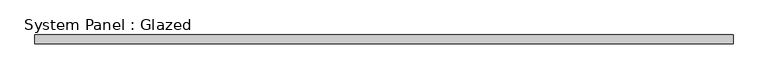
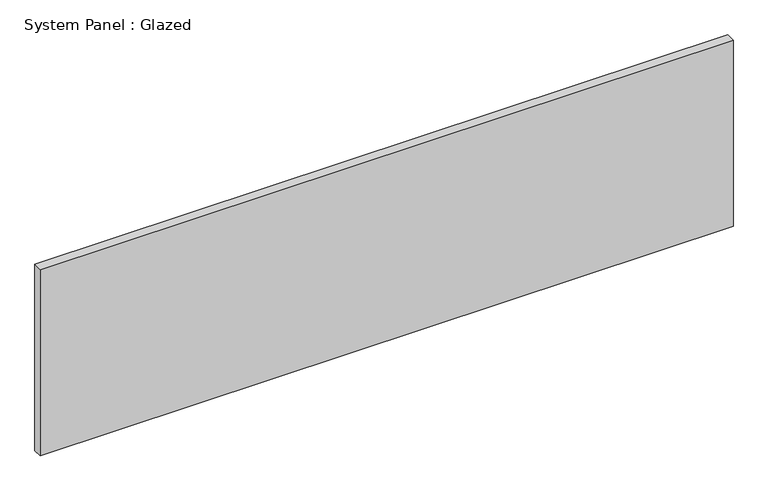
"""IFC4 building model written with IfcOpenShell, lengths in millimetres: plate geometry, System Panel : Glazed."""

import ifcopenshell
import ifcopenshell.guid

model = None  # the IFC model being written
_history = None  # IfcOwnerHistory: only IFC2X3 demands one
_inside = {}  # id of a spatial element -> (the spatial element, [elements in it])
_under = {}  # id of a project, library or spatial element -> (it, [spatial elements below it])
_declared = {}  # id of a project -> (the project, [libraries it declares])
_typed = {}  # id of a type object -> (the type object, [elements of that type])
_made_of = {}  # id of a material, layer set ... -> (it, [elements and type objects made of it])


def new_model(schema):
    """Start an empty IFC model of exactly this schema.

    Asked for "IFC4X3", IfcOpenShell would pick the latest addendum, in which some entities
    have other attributes; the version numbers below select the first issue.
    IFC2X3 requires an IfcOwnerHistory on every rooted entity: one is made here for all.
    """
    global model, _history
    if schema == "IFC4X3":
        model = ifcopenshell.file(schema_version=(4, 3, 0, 0))
    else:
        model = ifcopenshell.file(schema=schema)
    _inside.clear()
    _under.clear()
    _declared.clear()
    _typed.clear()
    _made_of.clear()
    _history = None
    if model.schema == "IFC2X3":
        org = make("IfcOrganization", Name="unknown")
        user = make(
            "IfcPersonAndOrganization",
            ThePerson=make("IfcPerson", FamilyName="unknown"),
            TheOrganization=org,
        )
        app = make(
            "IfcApplication",
            ApplicationDeveloper=org,
            Version="unknown",
            ApplicationFullName="unknown",
            ApplicationIdentifier="unknown",
        )
        _history = make(
            "IfcOwnerHistory",
            OwningUser=user,
            OwningApplication=app,
            ChangeAction="ADDED",
            CreationDate=0,
        )
    return model


def make(cls, **values):
    """One entity of the class cls with the attributes given. An attribute that is None is left unset."""
    return model.create_entity(
        cls, **{name: value for name, value in values.items() if value is not None}
    )


def rooted(cls, **values):
    """An entity with a GlobalId (a new one), such as an element, a storey or a relation."""
    return make(cls, GlobalId=ifcopenshell.guid.new(), OwnerHistory=_history, **values)


def si_unit(unit_type, name, prefix=None):
    """IfcSIUnit, for example si_unit("LENGTHUNIT", "METRE", prefix="MILLI")."""
    return make("IfcSIUnit", UnitType=unit_type, Prefix=prefix, Name=name)


def assignment(units):
    """IfcUnitAssignment: the units of a project."""
    return None if units is None else make("IfcUnitAssignment", Units=units)


def point(xyz):
    """IfcCartesianPoint."""
    return None if xyz is None else make("IfcCartesianPoint", Coordinates=xyz)


def direction(xyz):
    """IfcDirection."""
    return None if xyz is None else make("IfcDirection", DirectionRatios=xyz)


def frame(location, z_axis=None, x_axis=None):
    """IfcAxis2Placement3D, a coordinate frame: its origin and axes. An axis left out is left unset."""
    return make(
        "IfcAxis2Placement3D",
        Location=point(location),
        Axis=direction(z_axis),
        RefDirection=direction(x_axis),
    )


def origin():
    """The frame at (0, 0, 0) with its axes left unset."""
    return frame((0.0, 0.0, 0.0))


def origin_with_axes():
    """The frame at (0, 0, 0) with the z axis (0, 0, 1) and the x axis (1, 0, 0) written out."""
    return frame((0.0, 0.0, 0.0), z_axis=(0.0, 0.0, 1.0), x_axis=(1.0, 0.0, 0.0))


def place(relative_to, where):
    """IfcLocalPlacement: puts the frame where relative to a parent placement (None: the world)."""
    return make(
        "IfcLocalPlacement", PlacementRelTo=relative_to, RelativePlacement=where
    )


def context(
    kind, dimensions, precision=None, world=None, true_north=None, identifier=None
):
    """IfcGeometricRepresentationContext, for example the 3D "Model" context."""
    return make(
        "IfcGeometricRepresentationContext",
        ContextIdentifier=identifier,
        ContextType=kind,
        CoordinateSpaceDimension=dimensions,
        Precision=precision,
        WorldCoordinateSystem=world,
        TrueNorth=true_north,
    )


def project(units=None, contexts=None):
    """IfcProject with its units and contexts."""
    return rooted(
        "IfcProject",
        Name="project",
        RepresentationContexts=contexts,
        UnitsInContext=assignment(units),
    )


def spatial(cls, under=None, at=None, **own):
    """A site, building, storey or space (cls), placed at a placement, below another one or the project."""
    s = rooted(cls, ObjectPlacement=at, **own)
    if under is not None:
        _under.setdefault(under.id(), (under, []))[1].append(s)
    return s


def polyline(points):
    """IfcPolyline through the points."""
    return make("IfcPolyline", Points=[point(p) for p in points])


def outline(outer, holes=None, kind="AREA"):
    """IfcArbitraryClosedProfileDef: a profile drawn as a closed curve; with holes, ...WithVoids."""
    if holes is None:
        return make("IfcArbitraryClosedProfileDef", ProfileType=kind, OuterCurve=outer)
    return make(
        "IfcArbitraryProfileDefWithVoids",
        ProfileType=kind,
        OuterCurve=outer,
        InnerCurves=holes,
    )


def extrude(swept, where, along, depth):
    """IfcExtrudedAreaSolid: the profile swept, set in the frame where, extruded along a direction by depth."""
    return make(
        "IfcExtrudedAreaSolid",
        SweptArea=swept,
        Position=where,
        ExtrudedDirection=direction(along),
        Depth=depth,
    )


def shape(context_of_items, identifier, shape_type, items):
    """IfcShapeRepresentation: the items that make up one representation, for example the "Body"."""
    return make(
        "IfcShapeRepresentation",
        ContextOfItems=context_of_items,
        RepresentationIdentifier=identifier,
        RepresentationType=shape_type,
        Items=items,
    )


def source(mapping_origin, context_of_items, identifier, shape_type, items):
    """IfcRepresentationMap: a shape defined once, which mapped items show again and again."""
    return make(
        "IfcRepresentationMap",
        MappingOrigin=mapping_origin,
        MappedRepresentation=shape(context_of_items, identifier, shape_type, items),
    )


def transform(
    local_origin,
    x_axis=None,
    y_axis=None,
    z_axis=None,
    scale=None,
    scale2=None,
    scale3=None,
    uniform=True,
):
    """IfcCartesianTransformationOperator3D, or its non-uniform kind. x_axis, y_axis, z_axis: its Axis1, 2, 3."""
    if uniform:
        return make(
            "IfcCartesianTransformationOperator3D",
            Axis1=direction(x_axis),
            Axis2=direction(y_axis),
            LocalOrigin=point(local_origin),
            Scale=scale,
            Axis3=direction(z_axis),
        )
    return make(
        "IfcCartesianTransformationOperator3DnonUniform",
        Axis1=direction(x_axis),
        Axis2=direction(y_axis),
        LocalOrigin=point(local_origin),
        Scale=scale,
        Axis3=direction(z_axis),
        Scale2=scale2,
        Scale3=scale3,
    )


def mapped(mapping_source, mapping_target):
    """IfcMappedItem: shows the shape of a source again, moved by a transform."""
    return make(
        "IfcMappedItem", MappingSource=mapping_source, MappingTarget=mapping_target
    )


def made_of(thing, what):
    """Note that an element or type object is made of a material, layer set ...; save() writes the relation."""
    if what is not None:
        _made_of.setdefault(what.id(), (what, []))[1].append(thing)
    return thing


def element(
    cls,
    number,
    at=None,
    inside=None,
    cuts=None,
    type_object=None,
    material=None,
    context=None,
    identifier="Body",
    shape_type=None,
    held_by="IfcProductDefinitionShape",
    body=None,
    shapes=None,
    **own,
):
    """One element of the class cls, such as IfcWall. Its Tag is "e" and its number.

    at: its placement. inside: the storey or other place that contains it. cuts: it is an
    opening in that element (IfcRelVoidsElement). A single representation is given by context,
    identifier, shape_type and body (its items); several are given by shapes. held_by: the class
    of the entity that holds the representations. save() writes the other relations.
    """
    e = rooted(cls, Tag="e%d" % number, ObjectPlacement=at, **own)
    if body is not None:
        shapes = [shape(context, identifier, shape_type, body)]
    if shapes is not None:
        e.Representation = make(held_by, Representations=shapes)
    if inside is not None:
        _inside.setdefault(inside.id(), (inside, []))[1].append(e)
    if cuts is not None:
        rooted(
            "IfcRelVoidsElement", RelatingBuildingElement=cuts, RelatedOpeningElement=e
        )
    if type_object is not None:
        _typed.setdefault(type_object.id(), (type_object, []))[1].append(e)
    return made_of(e, material)


def aggregate(whole, parts):
    """IfcRelAggregates: a whole, such as a stair, and the parts it consists of."""
    return rooted("IfcRelAggregates", RelatingObject=whole, RelatedObjects=parts)


def save(model, path):
    """Write the relations noted so far, then the file.

    IfcRelAggregates (storeys below a building ...), IfcRelContainedInSpatialStructure (elements
    in a storey), IfcRelDefinesByType, IfcRelAssociatesMaterial and IfcRelDeclares: one each for
    every whole, place, type object, material and project.
    """
    for whole, parts in _under.values():
        aggregate(whole, parts)
    for where, things in _inside.values():
        rooted(
            "IfcRelContainedInSpatialStructure",
            RelatedElements=things,
            RelatingStructure=where,
        )
    for kind, things in _typed.values():
        rooted("IfcRelDefinesByType", RelatedObjects=things, RelatingType=kind)
    for what, things in _made_of.values():
        rooted("IfcRelAssociatesMaterial", RelatedObjects=things, RelatingMaterial=what)
    for by, libraries in _declared.values():
        rooted("IfcRelDeclares", RelatingContext=by, RelatedDefinitions=libraries)
    model.write(path)


def system_panel_glazed_eecd68d4(model_context):
    return source(origin(), model_context, "Body", "SweptSolid", [
        extrude(outline(polyline([(977.9, -44.45), (-977.9, -44.45), (-977.9, -19.05), (977.9, -19.05), (977.9, -44.45)])), origin_with_axes(), (0.0, 0.0, 1.0), 556.1524417),
    ])


if __name__ == "__main__":
    model = new_model("IFC4")
    model_context = context("Model", 3, world=origin())
    ifc_project = project(units=[si_unit("LENGTHUNIT", "METRE", prefix="MILLI")], contexts=[model_context])
    site = spatial("IfcSite", under=ifc_project)
    building = spatial("IfcBuilding", under=site)
    placement = place(None, origin())
    system_panel_glazed_shape = system_panel_glazed_eecd68d4(model_context)
    element("IfcPlate", 1, ObjectType="System Panel : Glazed", at=placement, inside=building, context=model_context, shape_type="MappedRepresentation", body=[
        mapped(system_panel_glazed_shape, transform((0.0, 0.0, 0.0), x_axis=(1.0, 0.0, 0.0), y_axis=(0.0, 1.0, 0.0), z_axis=(0.0, 0.0, 1.0))),
    ])
    save(model, "model.ifc")
